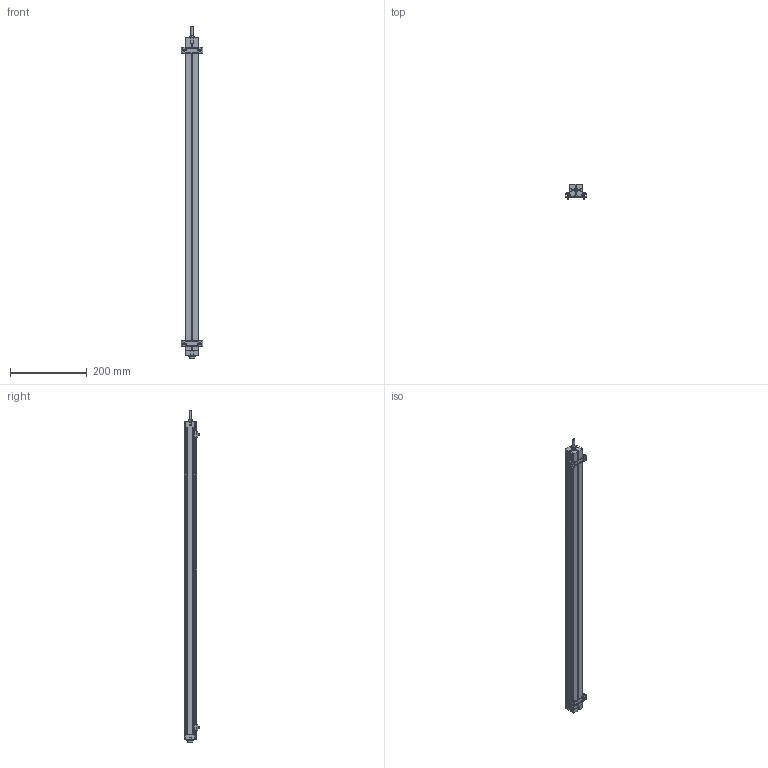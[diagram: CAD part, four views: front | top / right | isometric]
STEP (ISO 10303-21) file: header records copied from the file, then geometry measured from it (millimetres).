
FILE_DESCRIPTION(('STEP AP214'),'1');
FILE_NAME('burster_8719-5750_e9kif09lhrr0bid04nj3tg5e2.stp','2017-04-19T12:56:22',('TraceParts'),('TraceParts S.A.'),'Spatial InterOp 3D',' ',' ');
FILE_SCHEMA(('automotive_design'));
Length unit declared in the file: millimetre
Products named in the file (1): burster_8719-5750_e9kif09lhrr0bid04nj3tg5e2
Bounding box: 56 x 39.7 x 865.3 mm (x, y, z)
Volume: 824181.3 mm3; surface area: 142919.5 mm2
Topology: 1 solids, 3 shells, 674 faces, 1681 edges, 1006 vertices
Faces by surface type: plane 387, cylinder 195, cone 58, torus 12, bspline 12, sphere 10
Entity records: 25304 total; most frequent: CARTESIAN_POINT 3772, DIRECTION 3438, ORIENTED_EDGE 3342, EDGE_CURVE 1671, AXIS2_PLACEMENT_3D 1176, LINE 1086, VECTOR 1086, VERTEX_POINT 1006
